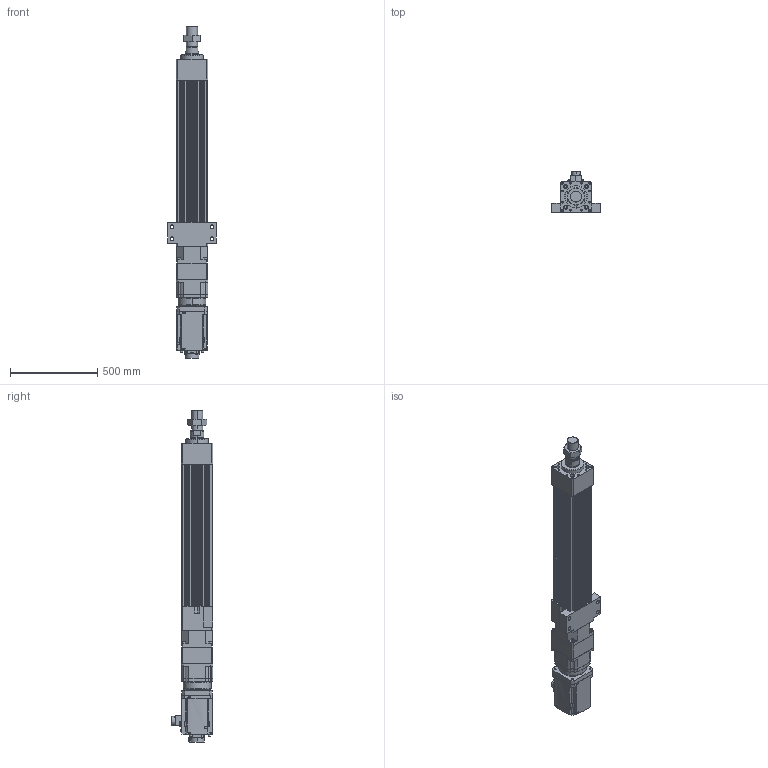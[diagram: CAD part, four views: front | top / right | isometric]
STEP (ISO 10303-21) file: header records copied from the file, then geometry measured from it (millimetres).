
FILE_DESCRIPTION (( 'STEP AP203' ), '1' );
FILE_NAME ('HES180HS-S500-W070G00-M-FFC.STEP', '2026-06-10T06:53:40', ( 'tms' ), ( '' ), 'SwSTEP 2.0', 'SolidWorks 2013', '' );
FILE_SCHEMA (( 'CONFIG_CONTROL_DESIGN' ));
Length unit declared in the file: millimetre
Products named in the file (9): M64X2.0P; HG-SR702B; HES180-FFC-500; AB1802; HES180-S-G180; AB1801; HES180HS-S500-W070G00-M-FFC; HES180-M-ROD-500; AB1803
Assembly tree (8 placements, depth 2):
  HES180HS-S500-W070G00-M-FFC
    HES180-FFC-500
    HES180-M-ROD-500
    M64X2.0P
    HES180-S-G180
    AB1801
    AB1802
    AB1803
    HG-SR702B
Bounding box: 280 x 239.1 x 1905.74 mm (x, y, z)
Volume: 29515230.6 mm3; surface area: 2686647.6 mm2
Topology: 5 solids, 20 shells, 1590 faces, 4113 edges, 2664 vertices
Faces by surface type: cylinder 720, plane 637, cone 166, bspline 63, torus 4
Entity records: 57254 total; most frequent: CARTESIAN_POINT 16780, DIRECTION 8535, ORIENTED_EDGE 8102, EDGE_CURVE 4075, AXIS2_PLACEMENT_3D 3199, VERTEX_POINT 2664, LINE 2137, VECTOR 2137
